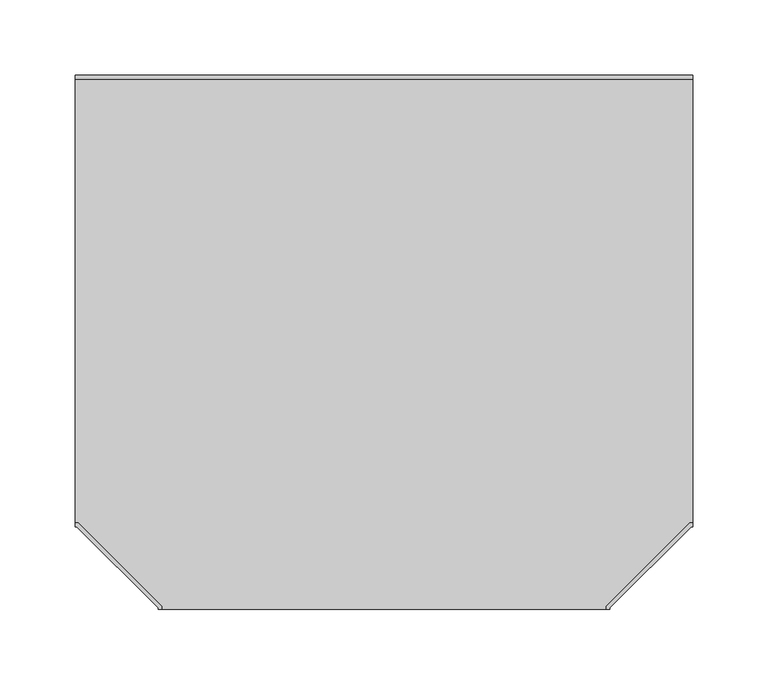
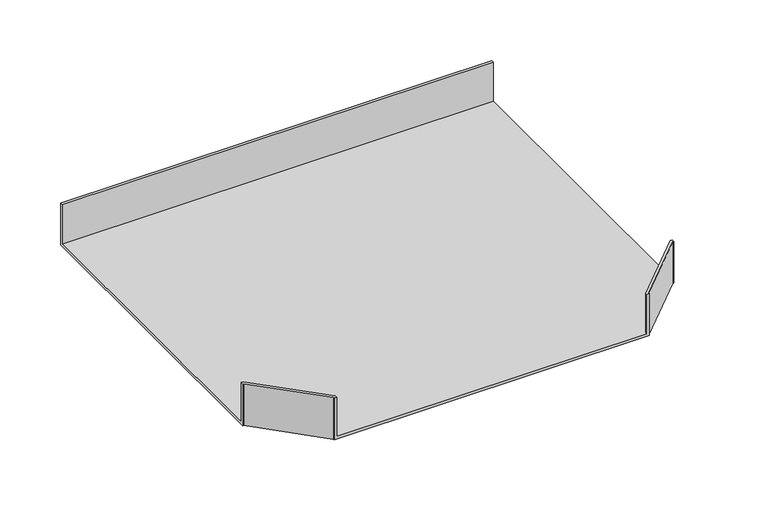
"""IFC4 building model written with IfcOpenShell, lengths in millimetres: cable carrier fitting geometry, BAKS_Horizontal tee : TKL_H42."""

from ifc_helpers import new_model, si_unit, origin, place, context, project, spatial, faceted_brep, source, transform, mapped, element, save


def cable_carrier_fitting_b6ebce7b(model_context):
    return source(origin(), model_context, "Body", "Brep", [
        faceted_brep([(-147.46, -202.9478976, 21.0), (-202.9478976, -147.46, 21.0), (-205.0, -147.46, 21.0), (-205.0, -150.0, 21.0), (-204.0, -150.0, 21.0), (-150.0, -204.0, 21.0), (-150.0, -205.0, 21.0), (-147.46, -205.0, 21.0), (147.46, -202.9478976, 21.0), (147.46, -205.0, 21.0), (150.0, -205.0, 21.0), (150.0, -204.0, 21.0), (204.0, -150.0, 21.0), (205.0, -150.0, 21.0), (205.0, -147.46, 21.0), (202.9478976, -147.46, 21.0), (205.0, 150.0, 21.0), (-205.0, 150.0, 21.0), (-205.0, 147.46, 21.0), (205.0, 147.46, 21.0), (-150.0, -205.0, -21.0), (-150.0, -204.0, -21.0), (-204.0, -150.0, -21.0), (-205.0, -150.0, -21.0), (-205.0, 150.0, -21.0), (205.0, 150.0, -21.0), (205.0, -150.0, -21.0), (204.0, -150.0, -21.0), (150.0, -204.0, -21.0), (150.0, -205.0, -21.0), (-147.46, -202.9478976, -18.46), (-202.9478976, -147.46, -18.46), (-205.0, -147.46, -18.46), (-205.0, 147.46, -18.46), (-204.0, -150.0, -18.46), (-150.0, -204.0, -18.46), (147.46, -205.0, -18.46), (-147.46, -205.0, -18.46), (150.0, -204.0, -18.46), (204.0, -150.0, -18.46), (205.0, 147.46, -18.46), (205.0, -147.46, -18.46), (202.9478976, -147.46, -18.46), (147.46, -202.9478976, -18.46)], [[[0, 1, 2, 3, 4, 5, 6, 7]], [[8, 9, 10, 11, 12, 13, 14, 15]], [[16, 17, 18, 19]], [[20, 21, 22, 23, 24, 25, 26, 27, 28, 29]], [[1, 0, 30, 31]], [[2, 1, 31, 32]], [[3, 2, 32, 33, 18, 17, 24, 23]], [[4, 3, 23, 22, 34]], [[5, 4, 34, 22, 21, 35]], [[20, 6, 5, 35, 21]], [[7, 6, 20, 29, 10, 9, 36, 37]], [[0, 7, 37, 30]], [[12, 11, 38, 28, 27, 39]], [[26, 13, 12, 39, 27]], [[14, 13, 26, 25, 16, 19, 40, 41]], [[15, 14, 41, 42]], [[8, 15, 42, 43]], [[9, 8, 43, 36]], [[11, 10, 29, 28, 38]], [[24, 17, 16, 25]], [[19, 18, 33, 40]], [[37, 36, 43, 42, 41, 40, 33, 32, 31, 30]]]),
    ])


if __name__ == "__main__":
    model = new_model("IFC4")
    model_context = context("Model", 3, world=origin())
    ifc_project = project(units=[si_unit("LENGTHUNIT", "METRE", prefix="MILLI")], contexts=[model_context])
    site = spatial("IfcSite", under=ifc_project)
    building = spatial("IfcBuilding", under=site)
    placement = place(None, origin())
    cable_carrier_fitting_shape = cable_carrier_fitting_b6ebce7b(model_context)
    element("IfcCableCarrierFitting", 1, ObjectType="BAKS_Horizontal tee : TKL_H42", at=placement, inside=building, context=model_context, shape_type="MappedRepresentation", body=[
        mapped(cable_carrier_fitting_shape, transform((0.0, 0.0, 0.0), x_axis=(1.0, 0.0, 0.0), y_axis=(0.0, 1.0, 0.0), z_axis=(0.0, 0.0, 1.0))),
    ])
    save(model, "model.ifc")
